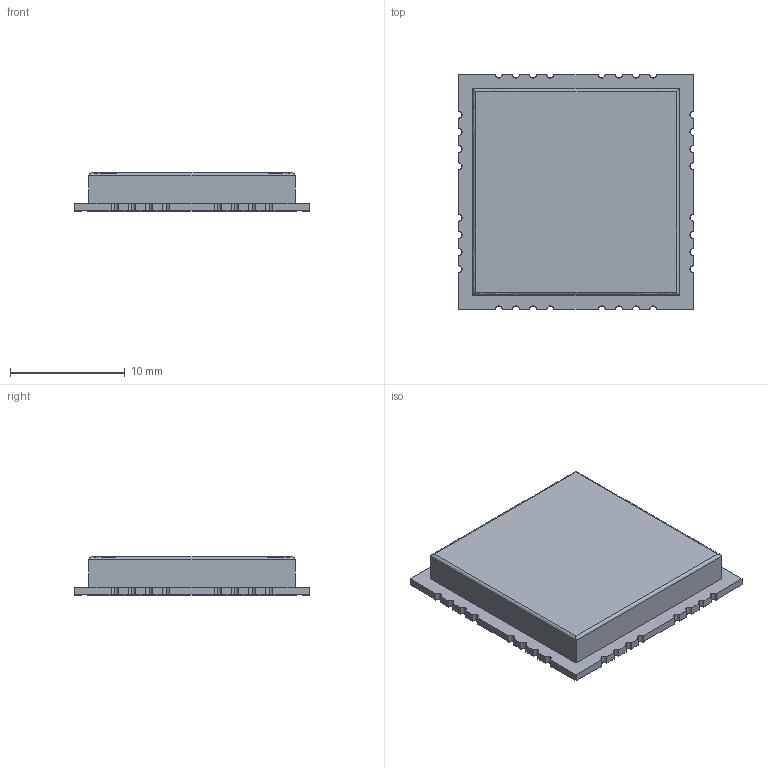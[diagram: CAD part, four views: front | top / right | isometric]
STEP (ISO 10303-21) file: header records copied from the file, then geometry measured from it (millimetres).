
FILE_DESCRIPTION(('eMachineShop Model'),'2;1');
FILE_NAME('eMachineShop Shape Model','2021-05-25T15:27:21',('Author'),( 'eMachineShop'),'eMachineShop CAD STEP Processor','eMachineShop CAD' ,'Unknown');
FILE_SCHEMA(('AUTOMOTIVE_DESIGN { 1 0 10303 214 1 1 1 1 }'));
Length unit declared in the file: millimetre
Products named in the file (1): eMachineShop CAD STEP Translator 1
Bounding box: 20.5 x 20.5 x 3.34 mm (x, y, z)
Volume: 1140.7 mm3; surface area: 1082 mm2
Topology: 1 solids, 1 shells, 388 faces, 988 edges, 604 vertices
Faces by surface type: extrusion 348, plane 36, bspline 4
Entity records: 23474 total; most frequent: CARTESIAN_POINT 6369, DIRECTION 2102, VECTOR 2028, ORIENTED_EDGE 1976, PCURVE 1976, DEFINITIONAL_REPRESENTATION 1976, LINE 1680, B_SPLINE_CURVE_WITH_KNOTS 1184
